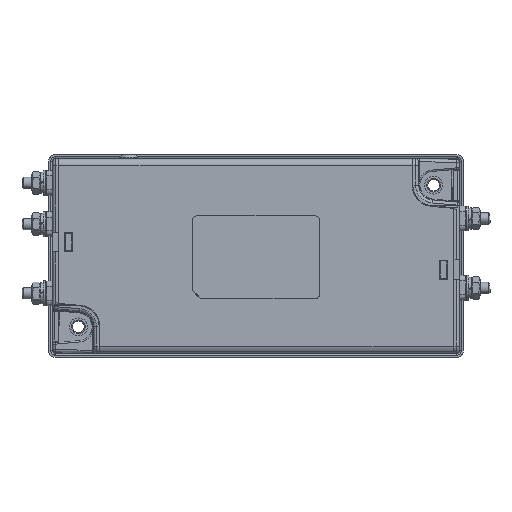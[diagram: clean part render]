
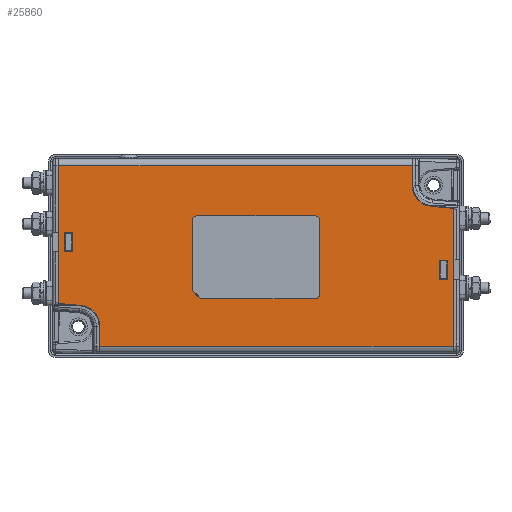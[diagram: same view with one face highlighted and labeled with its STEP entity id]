
A CAD part, top view. The second image highlights one B-rep face of the part: STEP entity #25860.
In plain terms, the highlighted planar face has unit normal (0, 0, 1).
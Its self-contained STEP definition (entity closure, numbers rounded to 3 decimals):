
#602=FACE_BOUND('',#2858,.T.);
#603=FACE_BOUND('',#2859,.T.);
#604=FACE_BOUND('',#2860,.T.);
#701=PLANE('',#27408);
#1365=FACE_OUTER_BOUND('',#2857,.T.);
#2857=EDGE_LOOP('',(#16331,#16332,#16333,#16334,#16335,#16336,#16337,#16338,
#16339,#16340,#16341,#16342));
#2858=EDGE_LOOP('',(#16343,#16344,#16345,#16346));
#2859=EDGE_LOOP('',(#16347,#16348,#16349,#16350));
#2860=EDGE_LOOP('',(#16351,#16352,#16353,#16354,#16355,#16356,#16357,#16358,
#16359,#16360));
#4942=CIRCLE('',#27395,2.);
#4944=CIRCLE('',#27399,2.);
#4946=CIRCLE('',#27403,2.);
#4947=CIRCLE('',#27409,7.5);
#4948=CIRCLE('',#27410,7.5);
#5866=LINE('',#37925,#7988);
#5870=LINE('',#37937,#7992);
#5874=LINE('',#37948,#7996);
#5878=LINE('',#37956,#8000);
#5881=LINE('',#37960,#8003);
#5882=LINE('',#37965,#8004);
#5883=LINE('',#37967,#8005);
#5884=LINE('',#37971,#8006);
#5885=LINE('',#37973,#8007);
#5886=LINE('',#37975,#8008);
#5887=LINE('',#37977,#8009);
#5888=LINE('',#37979,#8010);
#5889=LINE('',#37983,#8011);
#5890=LINE('',#37985,#8012);
#5891=LINE('',#37986,#8013);
#5892=LINE('',#37989,#8014);
#5893=LINE('',#37991,#8015);
#5894=LINE('',#37993,#8016);
#5895=LINE('',#37994,#8017);
#5896=LINE('',#37997,#8018);
#5897=LINE('',#37999,#8019);
#5898=LINE('',#38001,#8020);
#5899=LINE('',#38002,#8021);
#5900=LINE('',#38003,#8022);
#5901=LINE('',#38004,#8023);
#7988=VECTOR('',#30240,10.);
#7992=VECTOR('',#30252,10.);
#7996=VECTOR('',#30264,10.);
#8000=VECTOR('',#30270,10.);
#8003=VECTOR('',#30275,10.);
#8004=VECTOR('',#30280,10.);
#8005=VECTOR('',#30281,10.);
#8006=VECTOR('',#30284,10.);
#8007=VECTOR('',#30285,10.);
#8008=VECTOR('',#30286,10.);
#8009=VECTOR('',#30287,10.);
#8010=VECTOR('',#30288,10.);
#8011=VECTOR('',#30291,10.);
#8012=VECTOR('',#30292,10.);
#8013=VECTOR('',#30293,10.);
#8014=VECTOR('',#30294,10.);
#8015=VECTOR('',#30295,10.);
#8016=VECTOR('',#30296,10.);
#8017=VECTOR('',#30297,10.);
#8018=VECTOR('',#30298,10.);
#8019=VECTOR('',#30299,10.);
#8020=VECTOR('',#30300,10.);
#8021=VECTOR('',#30301,10.);
#8022=VECTOR('',#30302,10.);
#8023=VECTOR('',#30303,10.);
#10132=VERTEX_POINT('',#37902);
#10136=VERTEX_POINT('',#37909);
#10137=VERTEX_POINT('',#37911);
#10140=VERTEX_POINT('',#37918);
#10141=VERTEX_POINT('',#37920);
#10142=VERTEX_POINT('',#37924);
#10145=VERTEX_POINT('',#37932);
#10146=VERTEX_POINT('',#37936);
#10149=VERTEX_POINT('',#37944);
#10152=VERTEX_POINT('',#37955);
#10153=VERTEX_POINT('',#37963);
#10154=VERTEX_POINT('',#37964);
#10155=VERTEX_POINT('',#37966);
#10156=VERTEX_POINT('',#37968);
#10157=VERTEX_POINT('',#37970);
#10158=VERTEX_POINT('',#37972);
#10159=VERTEX_POINT('',#37974);
#10160=VERTEX_POINT('',#37976);
#10161=VERTEX_POINT('',#37978);
#10162=VERTEX_POINT('',#37980);
#10163=VERTEX_POINT('',#37982);
#10164=VERTEX_POINT('',#37984);
#10165=VERTEX_POINT('',#37987);
#10166=VERTEX_POINT('',#37988);
#10167=VERTEX_POINT('',#37990);
#10168=VERTEX_POINT('',#37992);
#10169=VERTEX_POINT('',#37995);
#10170=VERTEX_POINT('',#37996);
#10171=VERTEX_POINT('',#37998);
#10172=VERTEX_POINT('',#38000);
#12491=EDGE_CURVE('',#10141,#10140,#4942,.T.);
#12493=EDGE_CURVE('',#10142,#10141,#5866,.T.);
#12497=EDGE_CURVE('',#10145,#10142,#4944,.T.);
#12499=EDGE_CURVE('',#10146,#10145,#5870,.T.);
#12503=EDGE_CURVE('',#10149,#10146,#4946,.T.);
#12505=EDGE_CURVE('',#10132,#10149,#5874,.T.);
#12509=EDGE_CURVE('',#10152,#10136,#5878,.T.);
#12512=EDGE_CURVE('',#10140,#10152,#5881,.T.);
#12513=EDGE_CURVE('',#10153,#10154,#5882,.T.);
#12514=EDGE_CURVE('',#10153,#10155,#5883,.T.);
#12515=EDGE_CURVE('',#10155,#10156,#4947,.T.);
#12516=EDGE_CURVE('',#10156,#10157,#5884,.T.);
#12517=EDGE_CURVE('',#10157,#10158,#5885,.T.);
#12518=EDGE_CURVE('',#10159,#10158,#5886,.T.);
#12519=EDGE_CURVE('',#10160,#10159,#5887,.T.);
#12520=EDGE_CURVE('',#10160,#10161,#5888,.T.);
#12521=EDGE_CURVE('',#10161,#10162,#4948,.T.);
#12522=EDGE_CURVE('',#10162,#10163,#5889,.T.);
#12523=EDGE_CURVE('',#10163,#10164,#5890,.T.);
#12524=EDGE_CURVE('',#10154,#10164,#5891,.T.);
#12525=EDGE_CURVE('',#10165,#10166,#5892,.T.);
#12526=EDGE_CURVE('',#10166,#10167,#5893,.T.);
#12527=EDGE_CURVE('',#10167,#10168,#5894,.T.);
#12528=EDGE_CURVE('',#10168,#10165,#5895,.T.);
#12529=EDGE_CURVE('',#10169,#10170,#5896,.T.);
#12530=EDGE_CURVE('',#10170,#10171,#5897,.T.);
#12531=EDGE_CURVE('',#10171,#10172,#5898,.T.);
#12532=EDGE_CURVE('',#10172,#10169,#5899,.T.);
#12533=EDGE_CURVE('',#10136,#10137,#5900,.T.);
#12534=EDGE_CURVE('',#10137,#10132,#5901,.T.);
#16331=ORIENTED_EDGE('',*,*,#12513,.F.);
#16332=ORIENTED_EDGE('',*,*,#12514,.T.);
#16333=ORIENTED_EDGE('',*,*,#12515,.T.);
#16334=ORIENTED_EDGE('',*,*,#12516,.T.);
#16335=ORIENTED_EDGE('',*,*,#12517,.T.);
#16336=ORIENTED_EDGE('',*,*,#12518,.F.);
#16337=ORIENTED_EDGE('',*,*,#12519,.F.);
#16338=ORIENTED_EDGE('',*,*,#12520,.T.);
#16339=ORIENTED_EDGE('',*,*,#12521,.T.);
#16340=ORIENTED_EDGE('',*,*,#12522,.T.);
#16341=ORIENTED_EDGE('',*,*,#12523,.T.);
#16342=ORIENTED_EDGE('',*,*,#12524,.F.);
#16343=ORIENTED_EDGE('',*,*,#12525,.T.);
#16344=ORIENTED_EDGE('',*,*,#12526,.T.);
#16345=ORIENTED_EDGE('',*,*,#12527,.T.);
#16346=ORIENTED_EDGE('',*,*,#12528,.T.);
#16347=ORIENTED_EDGE('',*,*,#12529,.T.);
#16348=ORIENTED_EDGE('',*,*,#12530,.T.);
#16349=ORIENTED_EDGE('',*,*,#12531,.T.);
#16350=ORIENTED_EDGE('',*,*,#12532,.T.);
#16351=ORIENTED_EDGE('',*,*,#12505,.T.);
#16352=ORIENTED_EDGE('',*,*,#12503,.T.);
#16353=ORIENTED_EDGE('',*,*,#12499,.T.);
#16354=ORIENTED_EDGE('',*,*,#12497,.T.);
#16355=ORIENTED_EDGE('',*,*,#12493,.T.);
#16356=ORIENTED_EDGE('',*,*,#12491,.T.);
#16357=ORIENTED_EDGE('',*,*,#12512,.T.);
#16358=ORIENTED_EDGE('',*,*,#12509,.T.);
#16359=ORIENTED_EDGE('',*,*,#12533,.T.);
#16360=ORIENTED_EDGE('',*,*,#12534,.T.);
#25860=ADVANCED_FACE('',(#1365,#602,#603,#604),#701,.T.);
#27395=AXIS2_PLACEMENT_3D('',#37921,#30235,#30236);
#27399=AXIS2_PLACEMENT_3D('',#37933,#30247,#30248);
#27403=AXIS2_PLACEMENT_3D('',#37945,#30259,#30260);
#27408=AXIS2_PLACEMENT_3D('',#37962,#30278,#30279);
#27409=AXIS2_PLACEMENT_3D('',#37969,#30282,#30283);
#27410=AXIS2_PLACEMENT_3D('',#37981,#30289,#30290);
#30235=DIRECTION('center_axis',(0.,0.,-1.));
#30236=DIRECTION('ref_axis',(0.707,-0.707,0.));
#30240=DIRECTION('',(0.,-1.,0.));
#30247=DIRECTION('center_axis',(0.,0.,-1.));
#30248=DIRECTION('ref_axis',(0.707,0.707,0.));
#30252=DIRECTION('',(1.,0.,0.));
#30259=DIRECTION('center_axis',(0.,0.,-1.));
#30260=DIRECTION('ref_axis',(-0.707,0.707,0.));
#30264=DIRECTION('',(0.,1.,0.));
#30270=DIRECTION('',(-0.707,0.707,0.));
#30275=DIRECTION('',(-1.,0.,0.));
#30278=DIRECTION('center_axis',(0.,0.,1.));
#30279=DIRECTION('ref_axis',(0.,-1.,0.));
#30280=DIRECTION('',(-0.676,0.737,0.));
#30281=DIRECTION('',(0.996,-0.087,0.));
#30282=DIRECTION('center_axis',(0.,0.,-1.));
#30283=DIRECTION('ref_axis',(1.,0.,0.));
#30284=DIRECTION('',(0.,-1.,0.));
#30285=DIRECTION('',(1.,0.,0.));
#30286=DIRECTION('',(0.,-1.,0.));
#30287=DIRECTION('',(0.676,-0.737,0.));
#30288=DIRECTION('',(-0.996,0.087,0.));
#30289=DIRECTION('center_axis',(0.,0.,-1.));
#30290=DIRECTION('ref_axis',(-1.,0.,0.));
#30291=DIRECTION('',(0.,1.,0.));
#30292=DIRECTION('',(-1.,0.,0.));
#30293=DIRECTION('',(0.,1.,0.));
#30294=DIRECTION('',(1.,0.,0.));
#30295=DIRECTION('',(0.,-1.,0.));
#30296=DIRECTION('',(-1.,0.,0.));
#30297=DIRECTION('',(0.,1.,0.));
#30298=DIRECTION('',(-1.,0.,0.));
#30299=DIRECTION('',(0.,1.,0.));
#30300=DIRECTION('',(1.,0.,0.));
#30301=DIRECTION('',(0.,-1.,0.));
#30302=DIRECTION('',(-0.707,0.707,0.));
#30303=DIRECTION('',(0.,1.,0.));
#37902=CARTESIAN_POINT('',(-3.,-9.025,34.9));
#37909=CARTESIAN_POINT('',(-0.525,-15.,34.9));
#37911=CARTESIAN_POINT('',(-3.,-12.525,34.9));
#37918=CARTESIAN_POINT('',(41.,-15.525,34.9));
#37920=CARTESIAN_POINT('',(43.,-13.525,34.9));
#37921=CARTESIAN_POINT('Origin',(41.,-13.525,34.9));
#37924=CARTESIAN_POINT('',(43.,12.475,34.9));
#37925=CARTESIAN_POINT('',(43.,7.237,34.9));
#37932=CARTESIAN_POINT('',(41.,14.475,34.9));
#37933=CARTESIAN_POINT('Origin',(41.,12.475,34.9));
#37936=CARTESIAN_POINT('',(-1.,14.475,34.9));
#37937=CARTESIAN_POINT('',(8.5,14.475,34.9));
#37944=CARTESIAN_POINT('',(-3.,12.475,34.9));
#37945=CARTESIAN_POINT('Origin',(-1.,12.475,34.9));
#37948=CARTESIAN_POINT('',(-3.,-7.763,34.9));
#37955=CARTESIAN_POINT('',(0.,-15.525,34.9));
#37956=CARTESIAN_POINT('',(0.369,-15.894,34.9));
#37960=CARTESIAN_POINT('',(31.5,-15.525,34.9));
#37962=CARTESIAN_POINT('Origin',(20.,0.,34.9));
#37963=CARTESIAN_POINT('',(-50.502,-17.185,34.9));
#37964=CARTESIAN_POINT('',(-51.,-16.641,34.9));
#37965=CARTESIAN_POINT('',(-38.817,-29.937,34.9));
#37966=CARTESIAN_POINT('',(-43.146,-17.829,34.9));
#37967=CARTESIAN_POINT('',(-16.514,-20.159,34.9));
#37968=CARTESIAN_POINT('',(-36.3,-25.3,34.9));
#37969=CARTESIAN_POINT('Origin',(-43.8,-25.3,34.9));
#37970=CARTESIAN_POINT('',(-36.3,-32.5,34.9));
#37971=CARTESIAN_POINT('',(-36.3,-12.65,34.9));
#37972=CARTESIAN_POINT('',(91.,-32.5,34.9));
#37973=CARTESIAN_POINT('',(-15.5,-32.5,34.9));
#37974=CARTESIAN_POINT('',(91.,16.641,34.9));
#37975=CARTESIAN_POINT('',(91.,-35.,34.9));
#37976=CARTESIAN_POINT('',(90.502,17.185,34.9));
#37977=CARTESIAN_POINT('',(78.817,29.937,34.9));
#37978=CARTESIAN_POINT('',(83.146,17.829,34.9));
#37979=CARTESIAN_POINT('',(56.514,20.159,34.9));
#37980=CARTESIAN_POINT('',(76.3,25.3,34.9));
#37981=CARTESIAN_POINT('Origin',(83.8,25.3,34.9));
#37982=CARTESIAN_POINT('',(76.3,32.5,34.9));
#37983=CARTESIAN_POINT('',(76.3,12.65,34.9));
#37984=CARTESIAN_POINT('',(-51.,32.5,34.9));
#37985=CARTESIAN_POINT('',(55.5,32.5,34.9));
#37986=CARTESIAN_POINT('',(-51.,35.,34.9));
#37987=CARTESIAN_POINT('',(-49.,8.5,34.9));
#37988=CARTESIAN_POINT('',(-46.,8.5,34.9));
#37989=CARTESIAN_POINT('',(-14.5,8.5,34.9));
#37990=CARTESIAN_POINT('',(-46.,1.5,34.9));
#37991=CARTESIAN_POINT('',(-46.,2.5,34.9));
#37992=CARTESIAN_POINT('',(-49.,1.5,34.9));
#37993=CARTESIAN_POINT('',(-13.,1.5,34.9));
#37994=CARTESIAN_POINT('',(-49.,0.75,34.9));
#37995=CARTESIAN_POINT('',(89.,-8.5,34.9));
#37996=CARTESIAN_POINT('',(86.,-8.5,34.9));
#37997=CARTESIAN_POINT('',(54.5,-8.5,34.9));
#37998=CARTESIAN_POINT('',(86.,-1.5,34.9));
#37999=CARTESIAN_POINT('',(86.,-2.5,34.9));
#38000=CARTESIAN_POINT('',(89.,-1.5,34.9));
#38001=CARTESIAN_POINT('',(53.,-1.5,34.9));
#38002=CARTESIAN_POINT('',(89.,-0.75,34.9));
#38003=CARTESIAN_POINT('',(0.856,-16.381,34.9));
#38004=CARTESIAN_POINT('',(-3.,-6.263,34.9));
